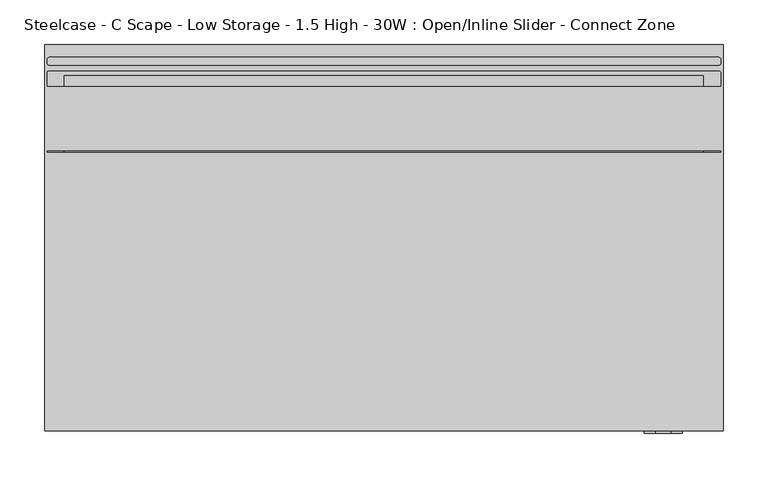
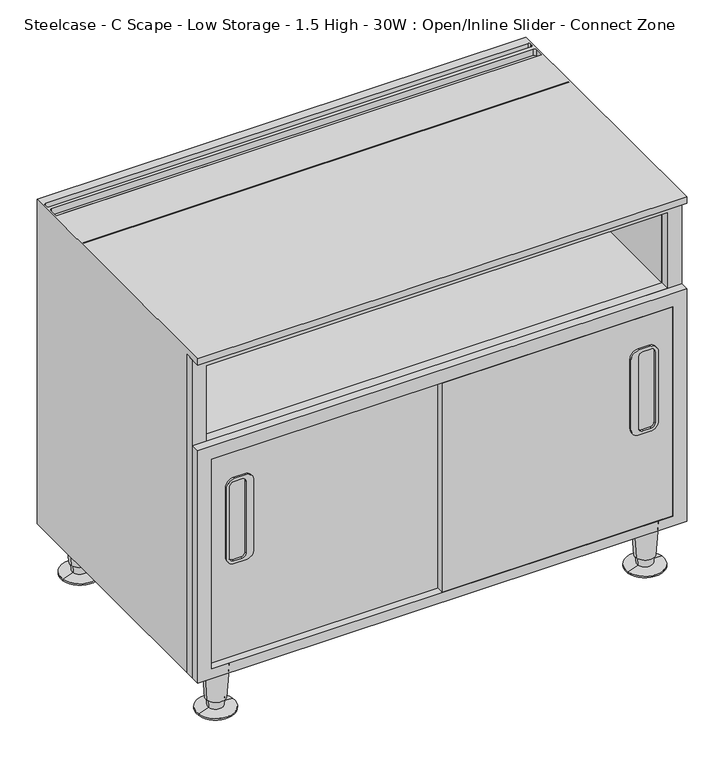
"""IFC4 building model written with IfcOpenShell, lengths in millimetres: furniture geometry, Steelcase - C Scape - Low Storage - 1.5 High - 30W : Open/Inline Slider - Connect Zone."""

from ifc_helpers import new_model, si_unit, point, frame, frame_2d, origin, place, context, project, spatial, polyline, circle_curve, trimmed, segment, composite_curve, outline, extrude, source, transform, mapped, element, save
from ifc_brep_helpers import plane_surface, cylinder_surface, revolved_surface, advanced_brep


def steelcase_c_scape_low_storage_1_5_high_30w_open_inline_d8b6da5b(model_context):
    return source(origin(), model_context, "Body", "SolidModel", [
        extrude(outline(composite_curve([segment(trimmed(circle_curve(frame_2d((373.5963095, 685.0136914)), 12.7015503), [point((386.2978598, 685.0136914))], [point((373.5963095, 672.3121411))], False, "CARTESIAN"), True, "CONTINUOUS"), segment(polyline([(373.5963095, 672.3121411), (259.2993979, 672.3121411)]), True, "CONTINUOUS"), segment(trimmed(circle_curve(frame_2d((259.2993979, 685.0136914)), 12.7015503), [point((259.2993979, 672.3121411))], [point((246.5978477, 685.0136914))], False, "CARTESIAN"), True, "CONTINUOUS"), segment(polyline([(246.5978477, 685.0136914), (246.5978477, 701.902577)]), True, "CONTINUOUS"), segment(trimmed(circle_curve(frame_2d((259.2978537, 701.902577)), 12.7000061), [point((246.5978477, 701.902577))], [point((259.2978537, 714.602583))], False, "CARTESIAN"), True, "CONTINUOUS"), segment(polyline([(259.2978537, 714.602583), (373.6009603, 714.602583)]), True, "CONTINUOUS"), segment(trimmed(circle_curve(frame_2d((373.6009603, 701.9056836)), 12.6968994), [point((373.6009603, 714.602583))], [point((386.2978598, 701.9056836))], False, "CARTESIAN"), True, "CONTINUOUS"), segment(polyline([(386.2978598, 701.9056836), (386.2978598, 685.0136914)]), True, "CONTINUOUS")], self_intersect=False), holes=[composite_curve([segment(trimmed(circle_curve(frame_2d((257.7496016, 703.426521)), 6.3531006), [point((257.7496016, 709.7796216))], [point((251.396501, 703.426521))], True, "CARTESIAN"), True, "CONTINUOUS"), segment(polyline([(251.396501, 703.426521), (251.396501, 690.7296216)]), True, "CONTINUOUS"), segment(trimmed(circle_curve(frame_2d((257.7496016, 690.7296216)), 6.3531006), [point((251.396501, 690.7296216))], [point((257.7496016, 684.376521))], True, "CARTESIAN"), True, "CONTINUOUS"), segment(polyline([(257.7496016, 684.376521), (375.0913854, 684.376521)]), True, "CONTINUOUS"), segment(trimmed(circle_curve(frame_2d((375.0913854, 690.7296216)), 6.3531006), [point((375.0913854, 684.376521))], [point((381.444486, 690.7296216))], True, "CARTESIAN"), True, "CONTINUOUS"), segment(polyline([(381.444486, 690.7296216), (381.444486, 703.426521)]), True, "CONTINUOUS"), segment(trimmed(circle_curve(frame_2d((375.0913854, 703.426521)), 6.3531006), [point((381.444486, 703.426521))], [point((375.0913854, 709.7796216))], True, "CARTESIAN"), True, "CONTINUOUS"), segment(polyline([(375.0913854, 709.7796216), (257.7496016, 709.7796216)]), True, "CONTINUOUS")], self_intersect=False)]), frame((0.0, -436.1182586, 0.0), z_axis=(0.0, 1.0, 0.0), x_axis=(0.0, 0.0, 1.0)), (0.0, 0.0, 1.0), 3.0482586),
        extrude(outline(composite_curve([segment(polyline([(386.2978598, 79.2484961), (386.2978598, 62.3565039)]), True, "CONTINUOUS"), segment(trimmed(circle_curve(frame_2d((373.6009603, 62.3565039)), 12.6968994), [point((386.2978598, 62.3565039))], [point((373.6009603, 49.6596045))], False, "CARTESIAN"), True, "CONTINUOUS"), segment(polyline([(373.6009603, 49.6596045), (259.2978537, 49.6596045)]), True, "CONTINUOUS"), segment(trimmed(circle_curve(frame_2d((259.2978537, 62.3596105)), 12.7000061), [point((259.2978537, 49.6596045))], [point((246.5978477, 62.3596105))], False, "CARTESIAN"), True, "CONTINUOUS"), segment(polyline([(246.5978477, 62.3596105), (246.5978477, 79.2484961)]), True, "CONTINUOUS"), segment(trimmed(circle_curve(frame_2d((259.2993979, 79.2484961)), 12.7015503), [point((246.5978477, 79.2484961))], [point((259.2993979, 91.9500464))], False, "CARTESIAN"), True, "CONTINUOUS"), segment(polyline([(259.2993979, 91.9500464), (373.5963095, 91.9500464)]), True, "CONTINUOUS"), segment(trimmed(circle_curve(frame_2d((373.5963095, 79.2484961)), 12.7015503), [point((373.5963095, 91.9500464))], [point((386.2978598, 79.2484961))], False, "CARTESIAN"), True, "CONTINUOUS")], self_intersect=False), holes=[composite_curve([segment(polyline([(257.7496016, 54.4825659), (375.0913854, 54.4825659)]), True, "CONTINUOUS"), segment(trimmed(circle_curve(frame_2d((375.0913854, 60.8356665)), 6.3531006), [point((375.0913854, 54.4825659))], [point((381.444486, 60.8356665))], True, "CARTESIAN"), True, "CONTINUOUS"), segment(polyline([(381.444486, 60.8356665), (381.444486, 73.5325659)]), True, "CONTINUOUS"), segment(trimmed(circle_curve(frame_2d((375.0913854, 73.5325659)), 6.3531006), [point((381.444486, 73.5325659))], [point((375.0913854, 79.8856665))], True, "CARTESIAN"), True, "CONTINUOUS"), segment(polyline([(375.0913854, 79.8856665), (257.7496016, 79.8856665)]), True, "CONTINUOUS"), segment(trimmed(circle_curve(frame_2d((257.7496016, 73.5325659)), 6.3531006), [point((257.7496016, 79.8856665))], [point((251.396501, 73.5325659))], True, "CARTESIAN"), True, "CONTINUOUS"), segment(polyline([(251.396501, 73.5325659), (251.396501, 60.8356665)]), True, "CONTINUOUS"), segment(trimmed(circle_curve(frame_2d((257.7496016, 60.8356665)), 6.3531006), [point((251.396501, 60.8356665))], [point((257.7496016, 54.4825659))], True, "CARTESIAN"), True, "CONTINUOUS")], self_intersect=False)]), frame((0.0, -424.7213475, 0.0), z_axis=(0.0, 1.0, 0.0), x_axis=(0.0, 0.0, 1.0)), (0.0, 0.0, 1.0), 3.0770066),
        extrude(outline(polyline([(458.7875121, 0.0), (76.2, 0.0), (76.2, 760.73), (458.7875121, 760.73), (458.7875121, 0.0)]), holes=[polyline([(436.8419, 21.3382324), (436.8419, 738.7617285), (92.7100024, 738.7617285), (92.7100024, 21.3382324), (436.8419, 21.3382324)])]), frame((0.0, -433.07, 0.0), z_axis=(0.0, 1.0, 0.0), x_axis=(0.0, 0.0, 1.0)), (0.0, 0.0, 1.0), 13.7159457),
        extrude(outline(polyline([(599.4499291, 0.0), (76.2, 0.0), (76.2, 760.73), (599.4499291, 760.73), (599.4499291, 320.0585382), (599.4499291, 0.0)]), holes=[polyline([(458.7875121, 21.3382324), (582.9399291, 21.3382324), (582.9399291, 738.7617285), (458.7875121, 738.7617285), (458.7875121, 21.3382324)]), polyline([(436.841904, 21.3256814), (436.841904, 738.7617285), (92.7100024, 738.7617285), (92.7100024, 21.3256814), (436.841904, 21.3256814)])]), frame((0.0, -419.3540543, 0.0), z_axis=(0.0, 1.0, 0.0), x_axis=(0.0, 0.0, 1.0)), (0.0, 0.0, 1.0), 14.9860039),
        advanced_brep(
        [(65.5422821, -397.1702762, 76.2), (27.8805432, -402.9325174, 76.2), (46.7114126, -400.0513968, 76.2), (61.5919341, -397.774679, 19.05), (31.8308912, -402.3281146, 19.05), (59.1623471, -398.1464055, 19.05), (34.2604781, -401.9563882, 19.05), (58.4735776, -398.2517871, 5.7545598), (34.9492476, -401.8510065, 5.7545598), (75.8224611, -395.5974102, 2.5119506), (17.6003641, -404.5053834, 2.5119506), (75.8224611, -395.5974102, 0.0), (17.6003641, -404.5053834, 0.0), (46.7114126, -400.0513968, 0.0)],
        [
            (0, 1, circle_curve(frame((46.7114126, -400.0513968, 76.2), z_axis=(0.0, 0.0, 1.0), x_axis=(0.0, -1.0, 0.0)), 19.05)),
            (1, 2),
            (2, 0),
            (1, 0, circle_curve(frame((46.7114126, -400.0513968, 76.2), z_axis=(0.0, 0.0, 1.0), x_axis=(0.0, -1.0, 0.0)), 19.05)),
            (3, 4, circle_curve(frame((46.7114126, -400.0513968, 19.05), z_axis=(0.0, 0.0, 1.0), x_axis=(0.0, -1.0, 0.0)), 15.0536827)),
            (4, 1),
            (0, 3),
            (4, 3, circle_curve(frame((46.7114126, -400.0513968, 19.05), z_axis=(0.0, 0.0, 1.0), x_axis=(0.0, -1.0, 0.0)), 15.0536827)),
            (5, 6, circle_curve(frame((46.7114126, -400.0513968, 19.05), z_axis=(0.0, 0.0, 1.0), x_axis=(0.0, -1.0, 0.0)), 12.5958232)),
            (6, 4),
            (3, 5),
            (6, 5, circle_curve(frame((46.7114126, -400.0513968, 19.05), z_axis=(0.0, 0.0, 1.0), x_axis=(0.0, -1.0, 0.0)), 12.5958232)),
            (7, 8, circle_curve(frame((46.7114126, -400.0513968, 5.7545598), z_axis=(0.0, 0.0, 1.0), x_axis=(0.0, -1.0, 0.0)), 11.8990387)),
            (8, 6),
            (5, 7),
            (8, 7, circle_curve(frame((46.7114126, -400.0513968, 5.7545598), z_axis=(0.0, 0.0, 1.0), x_axis=(0.0, -1.0, 0.0)), 11.8990387)),
            (9, 10, circle_curve(frame((46.7114126, -400.0513968, 2.5119506), z_axis=(0.0, 0.0, 1.0), x_axis=(0.0, -1.0, 0.0)), 29.4498071)),
            (10, 8),
            (7, 9),
            (10, 9, circle_curve(frame((46.7114126, -400.0513968, 2.5119506), z_axis=(0.0, 0.0, 1.0), x_axis=(0.0, -1.0, 0.0)), 29.4498071)),
            (11, 12, circle_curve(frame((46.7114126, -400.0513968, 0.0), z_axis=(0.0, 0.0, 1.0), x_axis=(0.0, -1.0, 0.0)), 29.4498071)),
            (12, 10),
            (9, 11),
            (12, 11, circle_curve(frame((46.7114126, -400.0513968, 0.0), z_axis=(0.0, 0.0, 1.0), x_axis=(0.0, -1.0, 0.0)), 29.4498071)),
            (13, 12),
            (11, 13),
        ],
        [
            plane_surface(frame((46.7114126, -400.0513968, 76.2), z_axis=(0.0, 0.0, 1.0), x_axis=(0.0, -1.0, 0.0))),
            revolved_surface(polyline([(46.7114126, -419.1013968, 76.2), (46.7114126, -415.1050795, 19.05)]), (46.7114126, -400.0513968, 25.4), (0.0, 0.0, -1.0)),
            plane_surface(frame((46.7114126, -400.0513968, 19.05), z_axis=(0.0, 0.0, -1.0), x_axis=(0.0, -1.0, 0.0))),
            revolved_surface(polyline([(46.7114126, -412.64722, 19.05), (46.7114126, -411.9504355, 5.7545598)]), (46.7114126, -400.0513968, 25.4), (0.0, 0.0, -1.0)),
            revolved_surface(polyline([(46.7114126, -411.9504355, 5.7545598), (46.7114126, -429.5012039, 2.5119506)]), (46.7114126, -400.0513968, 25.4), (0.0, 0.0, -1.0)),
            cylinder_surface(frame((46.7114126, -400.0513968, 25.4), z_axis=(0.0, 0.0, -1.0), x_axis=(0.0, -1.0, 0.0)), 29.4498071),
            plane_surface(frame((46.7114126, -400.0513968, 0.0), z_axis=(0.0, 0.0, -1.0), x_axis=(0.0, -1.0, 0.0))),
        ],
        [
            (0, [[1, 2, 3]]),
            (0, [[4, -3, -2]]),
            (1, [[5, 6, -1, 7]]),
            (1, [[8, -7, -4, -6]]),
            (2, [[9, 10, -5, 11]]),
            (2, [[12, -11, -8, -10]]),
            (3, [[13, 14, -9, 15]]),
            (3, [[16, -15, -12, -14]]),
            (4, [[17, 18, -13, 19]]),
            (4, [[20, -19, -16, -18]]),
            (5, [[21, 22, -17, 23]]),
            (5, [[24, -23, -20, -22]]),
            (6, [[25, -21, 26]]),
            (6, [[-26, -24, -25]]),
        ],
    ),
        advanced_brep(
        [(733.4598695, -397.1702762, 76.2), (695.7981305, -402.9325174, 76.2), (714.629, -400.0513968, 76.2), (729.5095214, -397.774679, 19.05), (699.7484786, -402.3281146, 19.05), (727.0799345, -398.1464055, 19.05), (702.1780655, -401.9563882, 19.05), (726.391165, -398.2517871, 5.7545598), (702.866835, -401.8510065, 5.7545598), (743.7400485, -395.5974102, 2.5119506), (685.5179515, -404.5053834, 2.5119506), (743.7400485, -395.5974102, 0.0), (685.5179515, -404.5053834, 0.0), (714.629, -400.0513968, 0.0)],
        [
            (0, 1, circle_curve(frame((714.629, -400.0513968, 76.2), z_axis=(0.0, 0.0, 1.0), x_axis=(0.0, -1.0, 0.0)), 19.05)),
            (1, 2),
            (2, 0),
            (1, 0, circle_curve(frame((714.629, -400.0513968, 76.2), z_axis=(0.0, 0.0, 1.0), x_axis=(0.0, -1.0, 0.0)), 19.05)),
            (3, 4, circle_curve(frame((714.629, -400.0513968, 19.05), z_axis=(0.0, 0.0, 1.0), x_axis=(0.0, -1.0, 0.0)), 15.0536827)),
            (4, 1),
            (0, 3),
            (4, 3, circle_curve(frame((714.629, -400.0513968, 19.05), z_axis=(0.0, 0.0, 1.0), x_axis=(0.0, -1.0, 0.0)), 15.0536827)),
            (5, 6, circle_curve(frame((714.629, -400.0513968, 19.05), z_axis=(0.0, 0.0, 1.0), x_axis=(0.0, -1.0, 0.0)), 12.5958232)),
            (6, 4),
            (3, 5),
            (6, 5, circle_curve(frame((714.629, -400.0513968, 19.05), z_axis=(0.0, 0.0, 1.0), x_axis=(0.0, -1.0, 0.0)), 12.5958232)),
            (7, 8, circle_curve(frame((714.629, -400.0513968, 5.7545598), z_axis=(0.0, 0.0, 1.0), x_axis=(0.0, -1.0, 0.0)), 11.8990387)),
            (8, 6),
            (5, 7),
            (8, 7, circle_curve(frame((714.629, -400.0513968, 5.7545598), z_axis=(0.0, 0.0, 1.0), x_axis=(0.0, -1.0, 0.0)), 11.8990387)),
            (9, 10, circle_curve(frame((714.629, -400.0513968, 2.5119506), z_axis=(0.0, 0.0, 1.0), x_axis=(0.0, -1.0, 0.0)), 29.4498071)),
            (10, 8),
            (7, 9),
            (10, 9, circle_curve(frame((714.629, -400.0513968, 2.5119506), z_axis=(0.0, 0.0, 1.0), x_axis=(0.0, -1.0, 0.0)), 29.4498071)),
            (11, 12, circle_curve(frame((714.629, -400.0513968, 0.0), z_axis=(0.0, 0.0, 1.0), x_axis=(0.0, -1.0, 0.0)), 29.4498071)),
            (12, 10),
            (9, 11),
            (12, 11, circle_curve(frame((714.629, -400.0513968, 0.0), z_axis=(0.0, 0.0, 1.0), x_axis=(0.0, -1.0, 0.0)), 29.4498071)),
            (13, 12),
            (11, 13),
        ],
        [
            plane_surface(frame((714.629, -400.0513968, 76.2), z_axis=(0.0, 0.0, 1.0), x_axis=(0.0, -1.0, 0.0))),
            revolved_surface(polyline([(714.629, -419.1013968, 76.2), (714.629, -415.1050795, 19.05)]), (714.629, -400.0513968, 25.4), (0.0, 0.0, -1.0)),
            plane_surface(frame((714.629, -400.0513968, 19.05), z_axis=(0.0, 0.0, -1.0), x_axis=(0.0, -1.0, 0.0))),
            revolved_surface(polyline([(714.629, -412.64722, 19.05), (714.629, -411.9504355, 5.7545598)]), (714.629, -400.0513968, 25.4), (0.0, 0.0, -1.0)),
            revolved_surface(polyline([(714.629, -411.9504355, 5.7545598), (714.629, -429.5012039, 2.5119506)]), (714.629, -400.0513968, 25.4), (0.0, 0.0, -1.0)),
            cylinder_surface(frame((714.629, -400.0513968, 25.4), z_axis=(0.0, 0.0, -1.0), x_axis=(0.0, -1.0, 0.0)), 29.4498071),
            plane_surface(frame((714.629, -400.0513968, 0.0), z_axis=(0.0, 0.0, -1.0), x_axis=(0.0, -1.0, 0.0))),
        ],
        [
            (0, [[1, 2, 3]]),
            (0, [[4, -3, -2]]),
            (1, [[5, 6, -1, 7]]),
            (1, [[8, -7, -4, -6]]),
            (2, [[9, 10, -5, 11]]),
            (2, [[12, -11, -8, -10]]),
            (3, [[13, 14, -9, 15]]),
            (3, [[16, -15, -12, -14]]),
            (4, [[17, 18, -13, 19]]),
            (4, [[20, -19, -16, -18]]),
            (5, [[21, 22, -17, 23]]),
            (5, [[24, -23, -20, -22]]),
            (6, [[25, -21, 26]]),
            (6, [[-26, -24, -25]]),
        ],
    ),
        advanced_brep(
        [(733.4598695, -31.5218435, 76.2), (695.7981305, -37.2840847, 76.2), (714.629, -34.4029641, 76.2), (729.5095214, -32.1262463, 19.05), (699.7484786, -36.6796819, 19.05), (727.0799345, -32.4979728, 19.05), (702.1780655, -36.3079555, 19.05), (726.391165, -32.6033544, 5.7545598), (702.866835, -36.2025738, 5.7545598), (743.7400485, -29.9489775, 2.5119506), (685.5179515, -38.8569507, 2.5119506), (743.7400485, -29.9489775, 0.0), (685.5179515, -38.8569507, 0.0), (714.629, -34.4029641, 0.0)],
        [
            (0, 1, circle_curve(frame((714.629, -34.4029641, 76.2), z_axis=(0.0, 0.0, 1.0), x_axis=(0.0, -1.0, 0.0)), 19.05)),
            (1, 2),
            (2, 0),
            (1, 0, circle_curve(frame((714.629, -34.4029641, 76.2), z_axis=(0.0, 0.0, 1.0), x_axis=(0.0, -1.0, 0.0)), 19.05)),
            (3, 4, circle_curve(frame((714.629, -34.4029641, 19.05), z_axis=(0.0, 0.0, 1.0), x_axis=(0.0, -1.0, 0.0)), 15.0536827)),
            (4, 1),
            (0, 3),
            (4, 3, circle_curve(frame((714.629, -34.4029641, 19.05), z_axis=(0.0, 0.0, 1.0), x_axis=(0.0, -1.0, 0.0)), 15.0536827)),
            (5, 6, circle_curve(frame((714.629, -34.4029641, 19.05), z_axis=(0.0, 0.0, 1.0), x_axis=(0.0, -1.0, 0.0)), 12.5958232)),
            (6, 4),
            (3, 5),
            (6, 5, circle_curve(frame((714.629, -34.4029641, 19.05), z_axis=(0.0, 0.0, 1.0), x_axis=(0.0, -1.0, 0.0)), 12.5958232)),
            (7, 8, circle_curve(frame((714.629, -34.4029641, 5.7545598), z_axis=(0.0, 0.0, 1.0), x_axis=(0.0, -1.0, 0.0)), 11.8990387)),
            (8, 6),
            (5, 7),
            (8, 7, circle_curve(frame((714.629, -34.4029641, 5.7545598), z_axis=(0.0, 0.0, 1.0), x_axis=(0.0, -1.0, 0.0)), 11.8990387)),
            (9, 10, circle_curve(frame((714.629, -34.4029641, 2.5119506), z_axis=(0.0, 0.0, 1.0), x_axis=(0.0, -1.0, 0.0)), 29.4498071)),
            (10, 8),
            (7, 9),
            (10, 9, circle_curve(frame((714.629, -34.4029641, 2.5119506), z_axis=(0.0, 0.0, 1.0), x_axis=(0.0, -1.0, 0.0)), 29.4498071)),
            (11, 12, circle_curve(frame((714.629, -34.4029641, 0.0), z_axis=(0.0, 0.0, 1.0), x_axis=(0.0, -1.0, 0.0)), 29.4498071)),
            (12, 10),
            (9, 11),
            (12, 11, circle_curve(frame((714.629, -34.4029641, 0.0), z_axis=(0.0, 0.0, 1.0), x_axis=(0.0, -1.0, 0.0)), 29.4498071)),
            (13, 12),
            (11, 13),
        ],
        [
            plane_surface(frame((714.629, -34.4029641, 76.2), z_axis=(0.0, 0.0, 1.0), x_axis=(0.0, -1.0, 0.0))),
            revolved_surface(polyline([(714.629, -53.4529641, 76.2), (714.629, -49.4566468, 19.05)]), (714.629, -34.4029641, 25.4), (0.0, 0.0, -1.0)),
            plane_surface(frame((714.629, -34.4029641, 19.05), z_axis=(0.0, 0.0, -1.0), x_axis=(0.0, -1.0, 0.0))),
            revolved_surface(polyline([(714.629, -46.9987873, 19.05), (714.629, -46.3020028, 5.7545598)]), (714.629, -34.4029641, 25.4), (0.0, 0.0, -1.0)),
            revolved_surface(polyline([(714.629, -46.3020028, 5.7545598), (714.629, -63.8527712, 2.5119506)]), (714.629, -34.4029641, 25.4), (0.0, 0.0, -1.0)),
            cylinder_surface(frame((714.629, -34.4029641, 25.4), z_axis=(0.0, 0.0, -1.0), x_axis=(0.0, -1.0, 0.0)), 29.4498071),
            plane_surface(frame((714.629, -34.4029641, 0.0), z_axis=(0.0, 0.0, -1.0), x_axis=(0.0, -1.0, 0.0))),
        ],
        [
            (0, [[1, 2, 3]]),
            (0, [[4, -3, -2]]),
            (1, [[5, 6, -1, 7]]),
            (1, [[8, -7, -4, -6]]),
            (2, [[9, 10, -5, 11]]),
            (2, [[12, -11, -8, -10]]),
            (3, [[13, 14, -9, 15]]),
            (3, [[16, -15, -12, -14]]),
            (4, [[17, 18, -13, 19]]),
            (4, [[20, -19, -16, -18]]),
            (5, [[21, 22, -17, 23]]),
            (5, [[24, -23, -20, -22]]),
            (6, [[25, -21, 26]]),
            (6, [[-26, -24, -25]]),
        ],
    ),
        advanced_brep(
        [(65.5422821, -31.5218435, 76.2), (27.8805432, -37.2840847, 76.2), (46.7114126, -34.4029641, 76.2), (61.5919341, -32.1262463, 19.05), (31.8308912, -36.6796819, 19.05), (59.1623471, -32.4979728, 19.05), (34.2604781, -36.3079555, 19.05), (58.4735776, -32.6033544, 5.7545598), (34.9492476, -36.2025738, 5.7545598), (75.8224611, -29.9489775, 2.5119506), (17.6003641, -38.8569507, 2.5119506), (75.8224611, -29.9489775, 0.0), (17.6003641, -38.8569507, 0.0), (46.7114126, -34.4029641, 0.0)],
        [
            (0, 1, circle_curve(frame((46.7114126, -34.4029641, 76.2), z_axis=(0.0, 0.0, 1.0), x_axis=(0.0, -1.0, 0.0)), 19.05)),
            (1, 2),
            (2, 0),
            (1, 0, circle_curve(frame((46.7114126, -34.4029641, 76.2), z_axis=(0.0, 0.0, 1.0), x_axis=(0.0, -1.0, 0.0)), 19.05)),
            (3, 4, circle_curve(frame((46.7114126, -34.4029641, 19.05), z_axis=(0.0, 0.0, 1.0), x_axis=(0.0, -1.0, 0.0)), 15.0536827)),
            (4, 1),
            (0, 3),
            (4, 3, circle_curve(frame((46.7114126, -34.4029641, 19.05), z_axis=(0.0, 0.0, 1.0), x_axis=(0.0, -1.0, 0.0)), 15.0536827)),
            (5, 6, circle_curve(frame((46.7114126, -34.4029641, 19.05), z_axis=(0.0, 0.0, 1.0), x_axis=(0.0, -1.0, 0.0)), 12.5958232)),
            (6, 4),
            (3, 5),
            (6, 5, circle_curve(frame((46.7114126, -34.4029641, 19.05), z_axis=(0.0, 0.0, 1.0), x_axis=(0.0, -1.0, 0.0)), 12.5958232)),
            (7, 8, circle_curve(frame((46.7114126, -34.4029641, 5.7545598), z_axis=(0.0, 0.0, 1.0), x_axis=(0.0, -1.0, 0.0)), 11.8990387)),
            (8, 6),
            (5, 7),
            (8, 7, circle_curve(frame((46.7114126, -34.4029641, 5.7545598), z_axis=(0.0, 0.0, 1.0), x_axis=(0.0, -1.0, 0.0)), 11.8990387)),
            (9, 10, circle_curve(frame((46.7114126, -34.4029641, 2.5119506), z_axis=(0.0, 0.0, 1.0), x_axis=(0.0, -1.0, 0.0)), 29.4498071)),
            (10, 8),
            (7, 9),
            (10, 9, circle_curve(frame((46.7114126, -34.4029641, 2.5119506), z_axis=(0.0, 0.0, 1.0), x_axis=(0.0, -1.0, 0.0)), 29.4498071)),
            (11, 12, circle_curve(frame((46.7114126, -34.4029641, 0.0), z_axis=(0.0, 0.0, 1.0), x_axis=(0.0, -1.0, 0.0)), 29.4498071)),
            (12, 10),
            (9, 11),
            (12, 11, circle_curve(frame((46.7114126, -34.4029641, 0.0), z_axis=(0.0, 0.0, 1.0), x_axis=(0.0, -1.0, 0.0)), 29.4498071)),
            (13, 12),
            (11, 13),
        ],
        [
            plane_surface(frame((46.7114126, -34.4029641, 76.2), z_axis=(0.0, 0.0, 1.0), x_axis=(0.0, -1.0, 0.0))),
            revolved_surface(polyline([(46.7114126, -53.4529641, 76.2), (46.7114126, -49.4566468, 19.05)]), (46.7114126, -34.4029641, 25.4), (0.0, 0.0, -1.0)),
            plane_surface(frame((46.7114126, -34.4029641, 19.05), z_axis=(0.0, 0.0, -1.0), x_axis=(0.0, -1.0, 0.0))),
            revolved_surface(polyline([(46.7114126, -46.9987873, 19.05), (46.7114126, -46.3020028, 5.7545598)]), (46.7114126, -34.4029641, 25.4), (0.0, 0.0, -1.0)),
            revolved_surface(polyline([(46.7114126, -46.3020028, 5.7545598), (46.7114126, -63.8527712, 2.5119506)]), (46.7114126, -34.4029641, 25.4), (0.0, 0.0, -1.0)),
            cylinder_surface(frame((46.7114126, -34.4029641, 25.4), z_axis=(0.0, 0.0, -1.0), x_axis=(0.0, -1.0, 0.0)), 29.4498071),
            plane_surface(frame((46.7114126, -34.4029641, 0.0), z_axis=(0.0, 0.0, -1.0), x_axis=(0.0, -1.0, 0.0))),
        ],
        [
            (0, [[1, 2, 3]]),
            (0, [[4, -3, -2]]),
            (1, [[5, 6, -1, 7]]),
            (1, [[8, -7, -4, -6]]),
            (2, [[9, 10, -5, 11]]),
            (2, [[12, -11, -8, -10]]),
            (3, [[13, 14, -9, 15]]),
            (3, [[16, -15, -12, -14]]),
            (4, [[17, 18, -13, 19]]),
            (4, [[20, -19, -16, -18]]),
            (5, [[21, 22, -17, 23]]),
            (5, [[24, -23, -20, -22]]),
            (6, [[25, -21, 26]]),
            (6, [[-26, -24, -25]]),
        ],
    ),
        advanced_brep(
        [(760.73, -433.07, 609.6), (760.73, -433.07, 599.4499291), (760.73, -404.3680504, 599.4499291), (760.73, -404.3680504, 76.2), (760.73, 0.0, 76.1999955), (760.73, 0.0055807, 609.6), (0.0, -433.07, 599.4499291), (0.0, -433.07, 609.6), (0.0, 0.0055807, 609.6), (0.0, 0.0, 76.1999955), (0.0, -404.3680504, 76.2), (0.0, -404.3680504, 599.4499291), (755.2304567, -14.3420703, 609.6), (757.9272317, -17.0388453, 609.6), (757.9272317, -20.3138654, 609.6), (754.9507358, -23.2903613, 609.6), (5.5670648, -23.2903613, 609.6), (2.7826272, -20.5059237, 609.6), (2.7826272, -17.0388453, 609.6), (5.4794022, -14.3420703, 609.6), (755.2308823, -29.5783496, 609.6), (757.9272317, -32.274699, 609.6), (757.9272317, -46.4703418, 609.6), (2.7826272, -46.4703418, 609.6), (2.7826272, -32.0458511, 609.6), (5.2501287, -29.5783496, 609.6), (2.7826272, -119.3775195, 609.6), (757.9272317, -119.3775195, 609.6), (757.9272317, -120.6444193, 609.6), (2.7826272, -120.6444193, 609.6), (21.3382324, -404.3680504, 599.4499291), (21.3382324, -126.9863574, 599.4499291), (738.7617285, -126.9863574, 599.4499291), (738.7617285, -404.3680504, 599.4499291), (21.3382324, -126.9863574, 458.7875121), (738.7617285, -126.9863574, 458.7875121), (264.4174811, -9.525, 450.8499879), (495.6775189, -9.525, 450.8499879), (738.7617285, -9.525, 450.8499879), (738.7617285, -404.3680504, 450.8499879), (21.3382324, -404.3680504, 450.8499879), (21.3382324, -9.525, 450.8499879), (738.7617285, -120.6444193, 599.4499291), (738.7617285, -120.6444193, 458.7875121), (21.3382324, -120.6444193, 458.7875121), (21.3382324, -120.6444193, 599.4499291), (2.7826272, -120.6444193, 599.4499291), (757.9272317, -120.6444193, 599.4499291), (738.7617285, -119.3775195, 599.4499291), (21.3382324, -119.3775195, 599.4499291), (21.3382324, -46.4703418, 599.4499291), (738.7617285, -46.4703418, 599.4499291), (755.2308823, -29.5783496, 599.4499291), (757.9272317, -32.274699, 599.4499291), (757.9272317, -20.3138654, 599.4499291), (754.9507358, -23.2903613, 599.4499291), (5.5670648, -23.2903613, 599.4499291), (2.7826272, -20.5059237, 599.4499291), (2.7826272, -32.0458511, 599.4499291), (5.2501287, -29.5783496, 599.4499291), (757.9272317, -46.4703418, 599.4499291), (2.7826272, -46.4703418, 599.4499291), (2.7826272, -119.3775195, 599.4499291), (757.9272317, -119.3775195, 599.4499291), (5.4794022, -14.3420703, 599.4499291), (755.2304567, -14.3420703, 599.4499291), (757.9272317, -17.0388453, 599.4499291), (264.4174811, 0.0, 466.2677968), (264.4174811, 0.0, 432.6382043), (380.0475, 0.0, 432.6382043), (495.6775189, 0.0, 432.6382043), (495.6775189, 0.0, 466.2677968), (2.7826272, -17.0388453, 599.4499291), (738.7617285, -34.4029641, 599.4499291), (21.3382324, -34.4029641, 599.4499291), (21.3382324, -34.4029641, 458.7875121), (738.7617285, -34.4029641, 458.7875121), (264.4174811, -9.5194193, 466.2677968), (495.6775189, -9.5194193, 466.2677968), (495.6775189, -9.525, 432.6382043), (380.0475, -9.525, 432.6382043), (264.4174811, -9.525, 432.6382043), (21.3382324, -9.525, 92.7100024), (738.7617285, -9.525, 92.7100024), (21.3382324, -404.3680504, 458.7875121), (21.3382324, -404.3680504, 92.7100024), (738.7617285, -404.3680504, 458.7875121), (738.7617285, -404.3680504, 92.7100024)],
        [
            (0, 1),
            (1, 2),
            (2, 3),
            (3, 4),
            (4, 5),
            (5, 0),
            (6, 7),
            (7, 8),
            (8, 9),
            (9, 10),
            (10, 11),
            (11, 6),
            (5, 8),
            (7, 0),
            (12, 13, circle_curve(frame((755.2304567, -17.0388453, 609.6), z_axis=(0.0, 0.0, -1.0), x_axis=(1.0, 0.0, 0.0)), 2.696775)),
            (13, 14),
            (14, 15, circle_curve(frame((754.9507358, -20.3138654, 609.6), z_axis=(0.0, 0.0, -1.0), x_axis=(1.0, 0.0, 0.0)), 2.9764959)),
            (15, 16),
            (16, 17, circle_curve(frame((5.5670648, -20.5059237, 609.6), z_axis=(0.0, 0.0, -1.0), x_axis=(1.0, 0.0, 0.0)), 2.7844376)),
            (17, 18),
            (18, 19, circle_curve(frame((5.4794022, -17.0388453, 609.6), z_axis=(0.0, 0.0, -1.0), x_axis=(1.0, 0.0, 0.0)), 2.696775)),
            (19, 12),
            (20, 21, circle_curve(frame((755.2308823, -32.274699, 609.6), z_axis=(0.0, 0.0, -1.0), x_axis=(1.0, 0.0, 0.0)), 2.6963494)),
            (21, 22),
            (22, 23),
            (23, 24),
            (24, 25, circle_curve(frame((5.2501287, -32.0458511, 609.6), z_axis=(0.0, 0.0, -1.0), x_axis=(1.0, 0.0, 0.0)), 2.4675015)),
            (25, 20),
            (26, 27),
            (27, 28),
            (28, 29),
            (29, 26),
            (6, 1),
            (11, 30),
            (30, 31),
            (31, 32),
            (32, 33),
            (33, 2),
            (31, 34),
            (34, 35),
            (35, 32),
            (36, 37),
            (37, 38),
            (38, 39),
            (39, 40),
            (40, 41),
            (41, 36),
            (42, 43),
            (43, 44),
            (44, 45),
            (45, 46),
            (46, 29),
            (28, 47),
            (47, 42),
            (48, 49),
            (49, 50),
            (50, 51),
            (51, 48),
            (20, 52),
            (52, 53, circle_curve(frame((755.2308823, -32.274699, 599.4499291), z_axis=(0.0, 0.0, -1.0), x_axis=(1.0, 0.0, 0.0)), 2.6963494)),
            (53, 21),
            (14, 54),
            (54, 55, circle_curve(frame((754.9507358, -20.3138654, 599.4499291), z_axis=(0.0, 0.0, -1.0), x_axis=(1.0, 0.0, 0.0)), 2.9764959)),
            (55, 15),
            (55, 56),
            (56, 16),
            (56, 57, circle_curve(frame((5.5670648, -20.5059237, 599.4499291), z_axis=(0.0, 0.0, -1.0), x_axis=(1.0, 0.0, 0.0)), 2.7844376)),
            (57, 17),
            (24, 58),
            (58, 59, circle_curve(frame((5.2501287, -32.0458511, 599.4499291), z_axis=(0.0, 0.0, -1.0), x_axis=(1.0, 0.0, 0.0)), 2.4675015)),
            (59, 25),
            (59, 52),
            (22, 60),
            (60, 51),
            (50, 61),
            (61, 23),
            (26, 62),
            (62, 49),
            (48, 63),
            (63, 27),
            (19, 64),
            (64, 65),
            (65, 12),
            (65, 66, circle_curve(frame((755.2304567, -17.0388453, 599.4499291), z_axis=(0.0, 0.0, -1.0), x_axis=(1.0, 0.0, 0.0)), 2.696775)),
            (66, 13),
            (4, 9),
            (67, 68),
            (68, 69),
            (69, 70),
            (70, 71),
            (71, 67),
            (18, 72),
            (72, 64, circle_curve(frame((5.4794022, -17.0388453, 599.4499291), z_axis=(0.0, 0.0, -1.0), x_axis=(1.0, 0.0, 0.0)), 2.696775)),
            (73, 74),
            (74, 75),
            (75, 76),
            (76, 73),
            (77, 78),
            (78, 37),
            (36, 77),
            (71, 78),
            (77, 67),
            (58, 61),
            (50, 74),
            (73, 51),
            (60, 53),
            (54, 66),
            (72, 57),
            (45, 49),
            (62, 46),
            (48, 42),
            (47, 63),
            (79, 80),
            (80, 81),
            (81, 36),
            (41, 82),
            (82, 83),
            (83, 38),
            (37, 79),
            (79, 70),
            (69, 80),
            (68, 81),
            (3, 10),
            (30, 84),
            (84, 34),
            (44, 75),
            (40, 85),
            (85, 82),
            (35, 86),
            (86, 33),
            (76, 43),
            (83, 87),
            (87, 39),
            (84, 86),
            (85, 87),
        ],
        [
            plane_surface(frame((760.73, -433.07, 609.6), z_axis=(1.0, 0.0, 0.0), x_axis=(0.0, -1.0, 0.0))),
            plane_surface(frame((0.0, -433.07, 609.6), z_axis=(-1.0, 0.0, 0.0), x_axis=(0.0, 1.0, 0.0))),
            plane_surface(frame((760.73, -120.6444193, 609.6), z_axis=(0.0, 0.0, 1.0), x_axis=(-1.0, 0.0, 0.0))),
            plane_surface(frame((760.73, -433.07, 609.6), z_axis=(0.0, -1.0, 0.0), x_axis=(-1.0, 0.0, 0.0))),
            plane_surface(frame((760.73, -433.07, 599.4499291), z_axis=(0.0, 0.0, -1.0), x_axis=(-1.0, 0.0, 0.0))),
            plane_surface(frame((760.73, -126.9863574, 599.4499291), z_axis=(0.0, -1.0, 0.0), x_axis=(-1.0, 0.0, 0.0))),
            plane_surface(frame((760.73, -126.9863574, 450.8499879), z_axis=(0.0, 0.0, -1.0), x_axis=(-1.0, 0.0, 0.0))),
            plane_surface(frame((760.73, -120.6444193, 450.8499879), z_axis=(0.0, 1.0, 0.0), x_axis=(-1.0, 0.0, 0.0))),
            plane_surface(frame((757.9272317, -32.274699, 599.4499291), z_axis=(0.0, 0.0, -1.0), x_axis=(0.0, 1.0, 0.0))),
            revolved_surface(polyline([(757.9272317, -32.274699, 599.4499291), (757.9272317, -32.274699, 609.6)]), (755.2308823, -32.274699, 599.4499291), (0.0, 0.0, -1.0)),
            revolved_surface(polyline([(757.9272317, -20.3138654, 599.4499291), (757.9272317, -20.3138654, 609.6)]), (754.9507358, -20.3138654, 599.4499291), (0.0, 0.0, -1.0)),
            plane_surface(frame((754.9507358, -23.2903613, 609.6), z_axis=(0.0, 1.0, 0.0), x_axis=(0.0, 0.0, -1.0))),
            revolved_surface(polyline([(8.3515024, -20.5059237, 599.4499291), (8.3515024, -20.5059237, 609.6)]), (5.5670648, -20.5059237, 599.4499291), (0.0, 0.0, -1.0)),
            revolved_surface(polyline([(7.7176302, -32.0458511, 599.4499291), (7.7176302, -32.0458511, 609.6)]), (5.2501287, -32.0458511, 599.4499291), (0.0, 0.0, -1.0)),
            plane_surface(frame((5.2501287, -29.5783496, 609.6), z_axis=(0.0, -1.0, 0.0), x_axis=(0.0, 0.0, -1.0))),
            plane_surface(frame((757.9272317, -46.4703418, 609.6), z_axis=(0.0, 1.0, 0.0), x_axis=(0.0, 0.0, -1.0))),
            plane_surface(frame((2.7826272, -119.3775195, 609.6), z_axis=(0.0, -1.0, 0.0), x_axis=(0.0, 0.0, -1.0))),
            plane_surface(frame((5.4794022, -14.3420703, 609.6), z_axis=(0.0, -1.0, 0.0), x_axis=(0.0, 0.0, -1.0))),
            revolved_surface(polyline([(757.9272317, -17.0388453, 599.4499291), (757.9272317, -17.0388453, 609.6)]), (755.2304567, -17.0388453, 41.6295811), (0.0, 0.0, -1.0)),
            plane_surface(frame((757.9272317, 0.0, 609.6), z_axis=(0.0, 1.0, 0.0), x_axis=(0.0, 0.0, -1.0))),
            revolved_surface(polyline([(8.1761772, -17.0388453, 599.4499291), (8.1761772, -17.0388453, 609.6)]), (5.4794022, -17.0388453, 41.6295811), (0.0, 0.0, -1.0)),
            plane_surface(frame((760.73, -34.4029641, 599.4499291), z_axis=(0.0, -1.0, 0.0), x_axis=(-1.0, 0.0, 0.0))),
            plane_surface(frame((760.73, -9.5194193, 458.7875121), z_axis=(0.0, 1.0, 0.0), x_axis=(-1.0, 0.0, 0.0))),
            plane_surface(frame((760.73, -9.5194193, 466.2677968), z_axis=(0.0, 0.0, -1.0), x_axis=(-1.0, 0.0, 0.0))),
            plane_surface(frame((760.73, 0.0, 599.4499291), z_axis=(0.0, 0.0, 1.0), x_axis=(-1.0, 0.0, 0.0))),
            plane_surface(frame((495.6775189, -9.525, 466.2677968), z_axis=(0.0, -1.0, 0.0), x_axis=(0.0, 0.0, -1.0))),
            plane_surface(frame((495.6775189, -9.525, 432.6382043), z_axis=(0.0, 0.0, 1.0), x_axis=(0.0, 1.0, 0.0))),
            plane_surface(frame((380.0475, -9.525, 432.6382043), z_axis=(0.0, 0.0, 1.0), x_axis=(0.0, 1.0, 0.0))),
            plane_surface(frame((0.0, -9.525, 76.1999955), z_axis=(0.0, 0.0, -1.0), x_axis=(0.0, 1.0, 0.0))),
            plane_surface(frame((21.3382324, -404.3680504, 599.4499291), z_axis=(1.0, 0.0, 0.0), x_axis=(0.0, 0.0, -1.0))),
            plane_surface(frame((738.7617285, -9.525, 599.4499291), z_axis=(-1.0, 0.0, 0.0), x_axis=(0.0, 0.0, -1.0))),
            plane_surface(frame((0.0, -9.525, 458.7875121), z_axis=(0.0, 0.0, 1.0), x_axis=(-1.0, 0.0, 0.0))),
            plane_surface(frame((0.0, -0.0055807, 92.7100024), z_axis=(0.0, 0.0, 1.0), x_axis=(-1.0, 0.0, 0.0))),
            plane_surface(frame((2.7826272, -120.6444193, 599.4499291), z_axis=(1.0, 0.0, 0.0), x_axis=(0.0, 1.0, 0.0))),
            plane_surface(frame((757.9272317, -120.6444193, 609.6), z_axis=(-1.0, 0.0, 0.0), x_axis=(0.0, -1.4185860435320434e-12, 1.0))),
            plane_surface(frame((495.6775189, -9.525, 466.2677968), z_axis=(-1.0, 0.0, 0.0), x_axis=(0.0, 1.0, 0.0))),
            plane_surface(frame((264.4174811, -9.525, 432.6382043), z_axis=(1.0, 0.0, 0.0), x_axis=(0.0, 1.0, 0.0))),
            plane_surface(frame((0.0, -404.3680504, 599.4499291), z_axis=(0.0, -1.0, 0.0), x_axis=(0.0, 0.0, -1.0))),
        ],
        [
            (0, [[1, 2, 3, 4, 5, 6]]),
            (1, [[7, 8, 9, 10, 11, 12]]),
            (2, [[-6, 13, -8, 14], [15, 16, 17, 18, 19, 20, 21, 22], [23, 24, 25, 26, 27, 28], [29, 30, 31, 32]]),
            (3, [[-1, -14, -7, 33]]),
            (4, [[-33, -12, 34, 35, 36, 37, 38, -2]]),
            (5, [[-36, 39, 40, 41]]),
            (6, [[42, 43, 44, 45, 46, 47]]),
            (7, [[48, 49, 50, 51, 52, -31, 53, 54]]),
            (8, [[55, 56, 57, 58]]),
            (9, [[-23, 59, 60, 61]]),
            (10, [[-17, 62, 63, 64]]),
            (11, [[-18, -64, 65, 66]]),
            (12, [[-19, -66, 67, 68]]),
            (13, [[-27, 69, 70, 71]]),
            (14, [[-28, -71, 72, -59]]),
            (15, [[-25, 73, 74, -57, 75, 76]]),
            (16, [[-29, 77, 78, -55, 79, 80]]),
            (17, [[-22, 81, 82, 83]]),
            (18, [[-15, -83, 84, 85]]),
            (19, [[-13, -5, 86, -9], [87, 88, 89, 90, 91]]),
            (20, [[-21, 92, 93, -81]]),
            (21, [[94, 95, 96, 97]]),
            (22, [[98, 99, -42, 100]]),
            (23, [[-91, 101, -98, 102]]),
            (24, [[-60, -72, -70, 103, -75, 104, -94, 105, -74, 106]]),
            (24, [[-63, 107, -84, -82, -93, 108, -67, -65]]),
            (24, [[109, -78, 110, -51]]),
            (24, [[111, -54, 112, -79]]),
            (25, [[113, 114, 115, -47, 116, 117, 118, -43, 119]]),
            (26, [[-113, 120, -89, 121]]),
            (27, [[-114, -121, -88, 122]]),
            (28, [[-86, -4, 123, -10]]),
            (29, [[-35, 124, 125, -39]]),
            (29, [[-104, -56, -109, -50, 126, -95]]),
            (29, [[-116, -46, 127, 128]]),
            (30, [[-37, -41, 129, 130]]),
            (30, [[-105, -97, 131, -48, -111, -58]]),
            (30, [[-118, 132, 133, -44]]),
            (31, [[-49, -131, -96, -126]]),
            (31, [[134, -129, -40, -125]]),
            (32, [[135, -132, -117, -128]]),
            (33, [[-20, -68, -108, -92]]),
            (33, [[-26, -76, -103, -69]]),
            (33, [[-32, -52, -110, -77]]),
            (34, [[-16, -85, -107, -62]]),
            (34, [[-24, -61, -106, -73]]),
            (34, [[-30, -80, -112, -53]]),
            (35, [[-90, -120, -119, -99, -101]]),
            (36, [[-87, -102, -100, -115, -122]]),
            (37, [[-34, -11, -123, -3, -38, -130, -134, -124], [-127, -45, -133, -135]]),
        ],
    ),
        extrude(outline(polyline([(380.0475, -421.6443408), (738.7617285, -421.6443408), (738.7617285, -433.07), (380.0475, -433.07), (380.0475, -421.6443408)])), frame((0.0, 0.0, 92.7100024), z_axis=(0.0, 0.0, 1.0), x_axis=(1.0, 0.0, 0.0)), (0.0, 0.0, 1.0), 344.1318976),
        extrude(outline(polyline([(380.0475, -415.2912402), (380.0475, -421.6443408), (21.3382324, -421.6443408), (21.3382324, -415.2912402), (380.0475, -415.2912402)])), frame((0.0, 0.0, 92.7100024), z_axis=(0.0, 0.0, 1.0), x_axis=(1.0, 0.0, 0.0)), (0.0, 0.0, 1.0), 344.1318976),
    ])


if __name__ == "__main__":
    model = new_model("IFC4")
    model_context = context("Model", 3, world=origin())
    ifc_project = project(units=[si_unit("LENGTHUNIT", "METRE", prefix="MILLI")], contexts=[model_context])
    site = spatial("IfcSite", under=ifc_project)
    building = spatial("IfcBuilding", under=site)
    placement = place(None, origin())
    steelcase_c_scape_low_storage_1_5_high_30w_open_inline_shape = steelcase_c_scape_low_storage_1_5_high_30w_open_inline_d8b6da5b(model_context)
    element("IfcFurniture", 1, ObjectType="Steelcase - C Scape - Low Storage - 1.5 High - 30W : Open/Inline Slider - Connect Zone", at=placement, inside=building, context=model_context, shape_type="MappedRepresentation", body=[
        mapped(steelcase_c_scape_low_storage_1_5_high_30w_open_inline_shape, transform((0.0, 0.0, 0.0), x_axis=(1.0, 0.0, 0.0), y_axis=(0.0, 1.0, 0.0), z_axis=(0.0, 0.0, 1.0))),
    ])
    save(model, "model.ifc")
